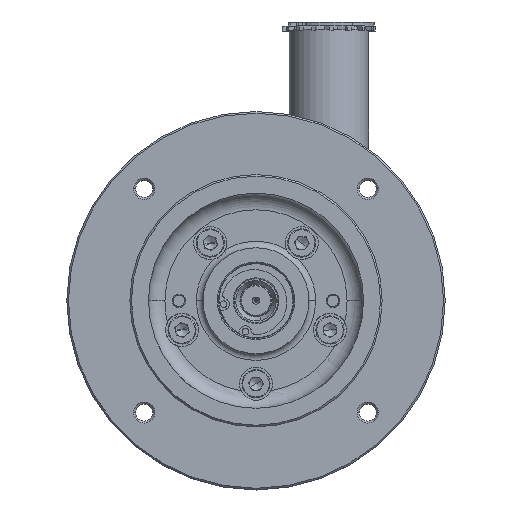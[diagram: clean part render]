
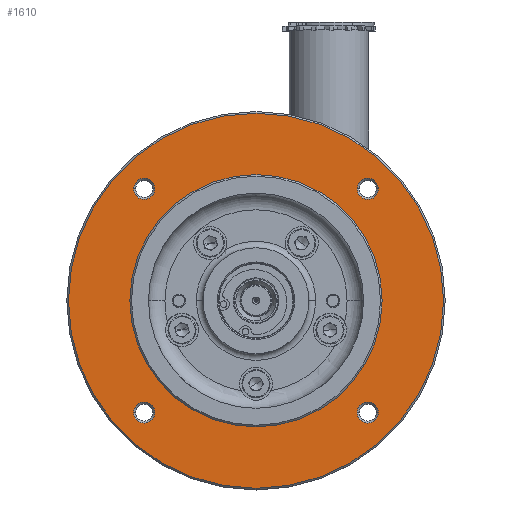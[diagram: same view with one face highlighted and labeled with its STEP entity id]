
A CAD part, top view. The second image highlights one B-rep face of the part: STEP entity #1610.
In plain terms, the highlighted planar face has unit normal (0, 0, 1).
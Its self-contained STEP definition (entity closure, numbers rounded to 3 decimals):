
#394 = EDGE_LOOP ( 'NONE', ( #42118, #21673 ) ) ;
#834 = DIRECTION ( 'NONE',  ( 1., 0., 0. ) ) ;
#1028 = CIRCLE ( 'NONE', #48195, 3.188 ) ;
#1510 = DIRECTION ( 'NONE',  ( -1., 0., 0. ) ) ;
#1610 = ADVANCED_FACE ( 'NONE', ( #7548, #10230, #6932, #31434, #41452, #28138 ), #7524, .F. ) ;
#2434 = CARTESIAN_POINT ( 'NONE',  ( 56.65, 1.55, 30.69 ) ) ;
#2526 = ORIENTED_EDGE ( 'NONE', *, *, #5801, .F. ) ;
#2694 = CIRCLE ( 'NONE', #48376, 3.188 ) ;
#3681 = ORIENTED_EDGE ( 'NONE', *, *, #35784, .F. ) ;
#3862 = CARTESIAN_POINT ( 'NONE',  ( 0., 1.55, 30.69 ) ) ;
#4296 = DIRECTION ( 'NONE',  ( 1., 0., 0. ) ) ;
#4467 = VERTEX_POINT ( 'NONE', #32035 ) ;
#4986 = AXIS2_PLACEMENT_3D ( 'NONE', #15994, #50159, #33268 ) ;
#5119 = DIRECTION ( 'NONE',  ( 0., 0., -1. ) ) ;
#5801 = EDGE_CURVE ( 'NONE', #19400, #4467, #47643, .T. ) ;
#6028 = CARTESIAN_POINT ( 'NONE',  ( 30.592, -32.23, 30.69 ) ) ;
#6316 = EDGE_CURVE ( 'NONE', #38325, #20588, #43682, .T. ) ;
#6611 = DIRECTION ( 'NONE',  ( -1., 0., 0. ) ) ;
#6932 = FACE_BOUND ( 'NONE', #394, .T. ) ;
#7372 = VERTEX_POINT ( 'NONE', #9957 ) ;
#7524 = PLANE ( 'NONE',  #9395 ) ;
#7548 = FACE_BOUND ( 'NONE', #32038, .T. ) ;
#7684 = DIRECTION ( 'NONE',  ( -1., 0., 0. ) ) ;
#8942 = ORIENTED_EDGE ( 'NONE', *, *, #6316, .F. ) ;
#9316 = CARTESIAN_POINT ( 'NONE',  ( -36.968, -32.23, 30.69 ) ) ;
#9395 = AXIS2_PLACEMENT_3D ( 'NONE', #33109, #28475, #16019 ) ;
#9731 = AXIS2_PLACEMENT_3D ( 'NONE', #55310, #42000, #4296 ) ;
#9957 = CARTESIAN_POINT ( 'NONE',  ( -38.1, 1.55, 30.69 ) ) ;
#10160 = EDGE_CURVE ( 'NONE', #39977, #42902, #47662, .T. ) ;
#10230 = FACE_BOUND ( 'NONE', #19846, .T. ) ;
#10458 = EDGE_LOOP ( 'NONE', ( #2526, #42780 ) ) ;
#11020 = CARTESIAN_POINT ( 'NONE',  ( 30.592, 35.33, 30.69 ) ) ;
#12646 = EDGE_CURVE ( 'NONE', #7372, #21333, #53287, .T. ) ;
#12841 = CARTESIAN_POINT ( 'NONE',  ( 33.78, -32.23, 30.69 ) ) ;
#13861 = DIRECTION ( 'NONE',  ( -1., 0., 0. ) ) ;
#15789 = CARTESIAN_POINT ( 'NONE',  ( 33.78, 35.33, 30.69 ) ) ;
#15994 = CARTESIAN_POINT ( 'NONE',  ( -33.78, 35.33, 30.69 ) ) ;
#16019 = DIRECTION ( 'NONE',  ( 1., 0., 0. ) ) ;
#16196 = CARTESIAN_POINT ( 'NONE',  ( 36.968, -32.23, 30.69 ) ) ;
#17387 = ORIENTED_EDGE ( 'NONE', *, *, #12646, .T. ) ;
#17504 = CARTESIAN_POINT ( 'NONE',  ( 0., 1.55, 30.69 ) ) ;
#17964 = AXIS2_PLACEMENT_3D ( 'NONE', #28812, #33453, #7684 ) ;
#18408 = CARTESIAN_POINT ( 'NONE',  ( -33.78, 35.33, 30.69 ) ) ;
#18574 = CARTESIAN_POINT ( 'NONE',  ( -33.78, -32.23, 30.69 ) ) ;
#19066 = CARTESIAN_POINT ( 'NONE',  ( 33.78, 35.33, 30.69 ) ) ;
#19383 = DIRECTION ( 'NONE',  ( 1., 0., 0. ) ) ;
#19400 = VERTEX_POINT ( 'NONE', #2434 ) ;
#19535 = EDGE_LOOP ( 'NONE', ( #34712, #39765 ) ) ;
#19846 = EDGE_LOOP ( 'NONE', ( #8942, #19955 ) ) ;
#19955 = ORIENTED_EDGE ( 'NONE', *, *, #33484, .F. ) ;
#20230 = CIRCLE ( 'NONE', #4986, 3.188 ) ;
#20588 = VERTEX_POINT ( 'NONE', #37545 ) ;
#21277 = DIRECTION ( 'NONE',  ( 0., 0., -1. ) ) ;
#21287 = CARTESIAN_POINT ( 'NONE',  ( -36.968, 35.33, 30.69 ) ) ;
#21333 = VERTEX_POINT ( 'NONE', #22958 ) ;
#21673 = ORIENTED_EDGE ( 'NONE', *, *, #10160, .F. ) ;
#22865 = DIRECTION ( 'NONE',  ( 0., 0., 1. ) ) ;
#22870 = DIRECTION ( 'NONE',  ( -1., 0., 0. ) ) ;
#22958 = CARTESIAN_POINT ( 'NONE',  ( 38.1, 1.55, 30.69 ) ) ;
#23464 = DIRECTION ( 'NONE',  ( 0., 0., 1. ) ) ;
#23877 = EDGE_LOOP ( 'NONE', ( #49485, #17387 ) ) ;
#26744 = AXIS2_PLACEMENT_3D ( 'NONE', #12841, #30076, #43171 ) ;
#27344 = VERTEX_POINT ( 'NONE', #36322 ) ;
#28138 = FACE_BOUND ( 'NONE', #19535, .T. ) ;
#28209 = AXIS2_PLACEMENT_3D ( 'NONE', #18408, #22865, #1510 ) ;
#28457 = CIRCLE ( 'NONE', #9731, 56.65 ) ;
#28475 = DIRECTION ( 'NONE',  ( 0., 0., -1. ) ) ;
#28812 = CARTESIAN_POINT ( 'NONE',  ( 33.78, -32.23, 30.69 ) ) ;
#28871 = CIRCLE ( 'NONE', #26744, 3.188 ) ;
#29912 = CARTESIAN_POINT ( 'NONE',  ( 36.968, 35.33, 30.69 ) ) ;
#30076 = DIRECTION ( 'NONE',  ( 0., 0., 1. ) ) ;
#30858 = CIRCLE ( 'NONE', #17964, 3.188 ) ;
#31434 = FACE_OUTER_BOUND ( 'NONE', #10458, .T. ) ;
#32035 = CARTESIAN_POINT ( 'NONE',  ( -56.65, 1.55, 30.69 ) ) ;
#32038 = EDGE_LOOP ( 'NONE', ( #44743, #3681 ) ) ;
#33109 = CARTESIAN_POINT ( 'NONE',  ( 0., -55.1, 30.69 ) ) ;
#33268 = DIRECTION ( 'NONE',  ( -1., 0., 0. ) ) ;
#33453 = DIRECTION ( 'NONE',  ( 0., 0., 1. ) ) ;
#33484 = EDGE_CURVE ( 'NONE', #20588, #38325, #20230, .T. ) ;
#33529 = DIRECTION ( 'NONE',  ( 1., 0., 0. ) ) ;
#34712 = ORIENTED_EDGE ( 'NONE', *, *, #53770, .F. ) ;
#34916 = AXIS2_PLACEMENT_3D ( 'NONE', #3862, #21277, #33529 ) ;
#34949 = DIRECTION ( 'NONE',  ( 0., 0., 1. ) ) ;
#34975 = AXIS2_PLACEMENT_3D ( 'NONE', #19066, #36339, #13861 ) ;
#35286 = AXIS2_PLACEMENT_3D ( 'NONE', #49253, #53786, #19383 ) ;
#35784 = EDGE_CURVE ( 'NONE', #35807, #46513, #30858, .T. ) ;
#35807 = VERTEX_POINT ( 'NONE', #16196 ) ;
#35908 = DIRECTION ( 'NONE',  ( -1., 0., 0. ) ) ;
#36322 = CARTESIAN_POINT ( 'NONE',  ( -30.592, -32.23, 30.69 ) ) ;
#36339 = DIRECTION ( 'NONE',  ( 0., 0., 1. ) ) ;
#37545 = CARTESIAN_POINT ( 'NONE',  ( -30.592, 35.33, 30.69 ) ) ;
#37898 = CIRCLE ( 'NONE', #34916, 38.1 ) ;
#38325 = VERTEX_POINT ( 'NONE', #21287 ) ;
#39765 = ORIENTED_EDGE ( 'NONE', *, *, #40452, .F. ) ;
#39977 = VERTEX_POINT ( 'NONE', #29912 ) ;
#40201 = CIRCLE ( 'NONE', #47632, 3.188 ) ;
#40452 = EDGE_CURVE ( 'NONE', #27344, #40810, #2694, .T. ) ;
#40588 = CARTESIAN_POINT ( 'NONE',  ( -33.78, -32.23, 30.69 ) ) ;
#40810 = VERTEX_POINT ( 'NONE', #9316 ) ;
#41452 = FACE_BOUND ( 'NONE', #23877, .T. ) ;
#42000 = DIRECTION ( 'NONE',  ( 0., 0., -1. ) ) ;
#42118 = ORIENTED_EDGE ( 'NONE', *, *, #42848, .F. ) ;
#42780 = ORIENTED_EDGE ( 'NONE', *, *, #47772, .F. ) ;
#42848 = EDGE_CURVE ( 'NONE', #42902, #39977, #1028, .T. ) ;
#42902 = VERTEX_POINT ( 'NONE', #11020 ) ;
#43004 = EDGE_CURVE ( 'NONE', #46513, #35807, #28871, .T. ) ;
#43171 = DIRECTION ( 'NONE',  ( -1., 0., 0. ) ) ;
#43682 = CIRCLE ( 'NONE', #28209, 3.188 ) ;
#44380 = DIRECTION ( 'NONE',  ( 0., 0., 1. ) ) ;
#44743 = ORIENTED_EDGE ( 'NONE', *, *, #43004, .F. ) ;
#46513 = VERTEX_POINT ( 'NONE', #6028 ) ;
#47342 = EDGE_CURVE ( 'NONE', #21333, #7372, #37898, .T. ) ;
#47632 = AXIS2_PLACEMENT_3D ( 'NONE', #40588, #44380, #35908 ) ;
#47643 = CIRCLE ( 'NONE', #35286, 56.65 ) ;
#47662 = CIRCLE ( 'NONE', #34975, 3.188 ) ;
#47772 = EDGE_CURVE ( 'NONE', #4467, #19400, #28457, .T. ) ;
#48195 = AXIS2_PLACEMENT_3D ( 'NONE', #15789, #23464, #6611 ) ;
#48376 = AXIS2_PLACEMENT_3D ( 'NONE', #18574, #34949, #22870 ) ;
#49253 = CARTESIAN_POINT ( 'NONE',  ( 0., 1.55, 30.69 ) ) ;
#49485 = ORIENTED_EDGE ( 'NONE', *, *, #47342, .T. ) ;
#50159 = DIRECTION ( 'NONE',  ( 0., 0., 1. ) ) ;
#53287 = CIRCLE ( 'NONE', #55233, 38.1 ) ;
#53770 = EDGE_CURVE ( 'NONE', #40810, #27344, #40201, .T. ) ;
#53786 = DIRECTION ( 'NONE',  ( 0., 0., -1. ) ) ;
#55233 = AXIS2_PLACEMENT_3D ( 'NONE', #17504, #5119, #834 ) ;
#55310 = CARTESIAN_POINT ( 'NONE',  ( 0., 1.55, 30.69 ) ) ;
